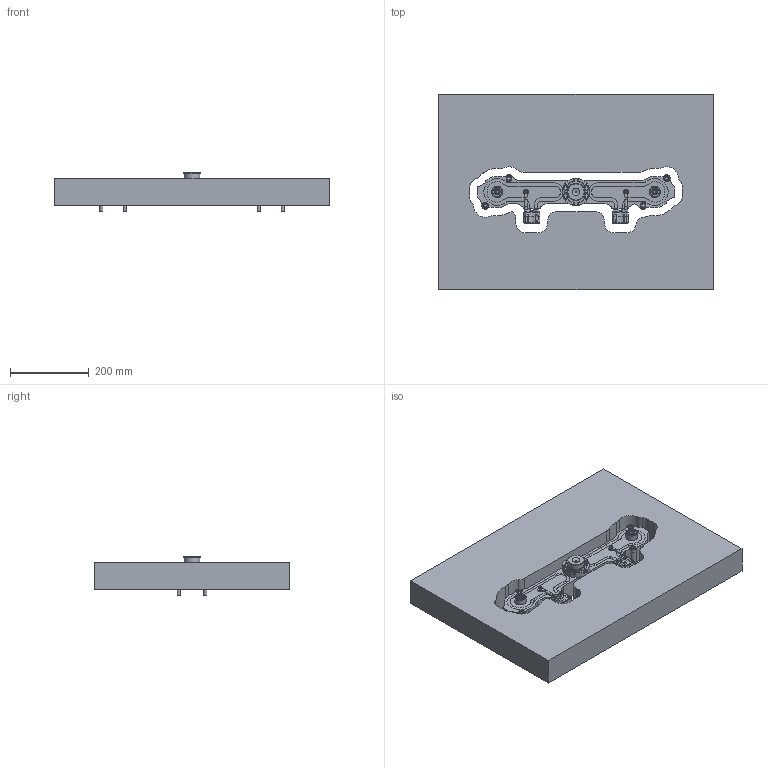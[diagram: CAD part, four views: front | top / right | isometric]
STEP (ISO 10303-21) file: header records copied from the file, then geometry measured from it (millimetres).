
FILE_DESCRIPTION(('STEP AP214'),'1');
FILE_NAME('D:/Trabalho/Standa_library/Document5.step','2010-05-19T09:27:41',(' '),(' '),'Spatial InterOp 3D',' ',' ');
FILE_SCHEMA(('automotive_design'));
Length unit declared in the file: millimetre
Products named in the file (47): @28; @32; @34; @36; @38; @40; @42; @44; @46; @48; @50; @52; @54; @56; @58; @60; @62; @64; @66; @68; @70; @72; @74; @76; @78; @80; @82; @84; @86; @88; @90; @92; @94; @96; @98; @100; @102; @104; @106; @108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
Bounding box: 696 x 496 x 99 mm (x, y, z)
Volume: 21291764.7 mm3; surface area: 1177319.5 mm2
Topology: 47 solids, 47 shells, 2418 faces, 6005 edges, 3731 vertices
Faces by surface type: plane 961, cylinder 485, cone 442, torus 261, bspline 234, extrusion 18, sphere 15, revolution 2
Full cylindrical faces by diameter (mm): 3.3 x8, 4 x5, 4.2 x2, 4.5 x2, 5 x6, 6 x14, 6.5 x7, 6.7 x20, 6.8 x2, 7 x2, 7.3 x2, 7.5 x2, 8 x21, 9 x4, 9.5 x4, 10 x10, 11 x2, 12 x5, 13 x8, 14 x4, 15 x4, 16 x3, 22 x3, 22.5 x1, 26 x2, 29.2 x2, 40 x1, 41 x1, 42.5 x1, 70 x1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
Entity records: 100848 total; most frequent: CARTESIAN_POINT 25787, DIRECTION 11491, ORIENTED_EDGE 11260, EDGE_CURVE 5630, AXIS2_PLACEMENT_3D 4469, VERTEX_POINT 3658, EDGE_LOOP 2850, FACE_OUTER_BOUND 2619
